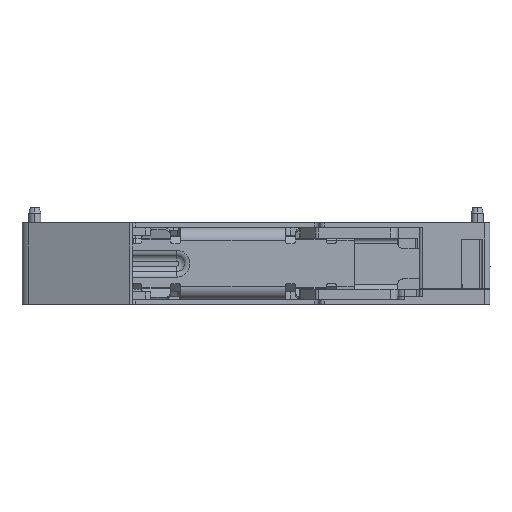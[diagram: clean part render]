
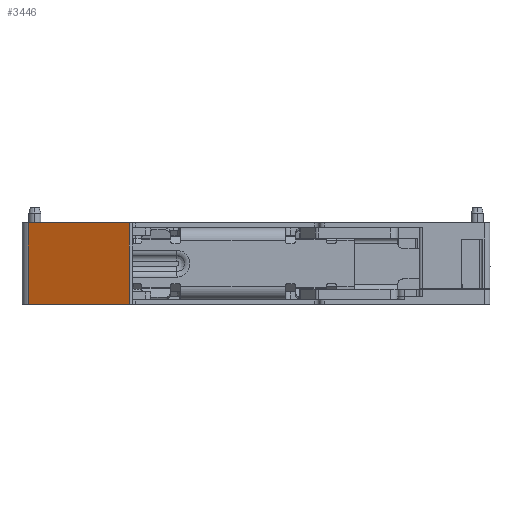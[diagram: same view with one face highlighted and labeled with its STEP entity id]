
A CAD part, front view. The second image highlights one B-rep face of the part: STEP entity #3446.
In plain terms, the highlighted planar face has unit normal (-0.395, -0.919, 0).
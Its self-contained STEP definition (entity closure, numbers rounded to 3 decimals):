
#3446=ADVANCED_FACE('',(#8554),#6528,.T.);
#6528=PLANE('',#69121);
#8554=FACE_OUTER_BOUND('',#12008,.T.);
#12008=EDGE_LOOP('',(#23702,#23703,#23704,#23705));
#23702=ORIENTED_EDGE('',*,*,#48383,.F.);
#23703=ORIENTED_EDGE('',*,*,#48483,.F.);
#23704=ORIENTED_EDGE('',*,*,#46781,.F.);
#23705=ORIENTED_EDGE('',*,*,#48484,.T.);
#39877=VERTEX_POINT('',#99463);
#39878=VERTEX_POINT('',#99465);
#41052=VERTEX_POINT('',#105464);
#41053=VERTEX_POINT('',#105466);
#46781=EDGE_CURVE('',#39877,#39878,#55778,.T.);
#48383=EDGE_CURVE('',#41052,#41053,#56736,.T.);
#48483=EDGE_CURVE('',#39878,#41052,#56792,.T.);
#48484=EDGE_CURVE('',#39877,#41053,#56793,.T.);
#55778=LINE('',#99464,#61850);
#56736=LINE('',#105465,#62808);
#56792=LINE('',#105661,#62864);
#56793=LINE('',#105663,#62865);
#61850=VECTOR('',#77176,1.);
#62808=VECTOR('',#80034,1.);
#62864=VECTOR('',#80192,1.);
#62865=VECTOR('',#80195,1.);
#69121=AXIS2_PLACEMENT_3D('',#105664,#80196,#80197);
#77176=DIRECTION('',(0.919,-0.395,0.));
#80034=DIRECTION('',(-0.919,0.395,0.));
#80192=DIRECTION('',(0.,0.,-1.));
#80195=DIRECTION('',(0.,0.,-1.));
#80196=DIRECTION('',(-0.395,-0.919,0.));
#80197=DIRECTION('',(0.919,-0.395,0.));
#99463=CARTESIAN_POINT('',(1.283,8.68,0.473));
#99464=CARTESIAN_POINT('',(1.283,8.68,0.473));
#99465=CARTESIAN_POINT('',(21.076,0.166,0.473));
#105464=CARTESIAN_POINT('',(21.076,0.166,-15.527));
#105465=CARTESIAN_POINT('',(21.076,0.166,-15.527));
#105466=CARTESIAN_POINT('',(1.283,8.68,-15.527));
#105661=CARTESIAN_POINT('',(21.076,0.166,0.473));
#105663=CARTESIAN_POINT('',(1.283,8.68,0.473));
#105664=CARTESIAN_POINT('',(0.788,8.892,-15.602));
